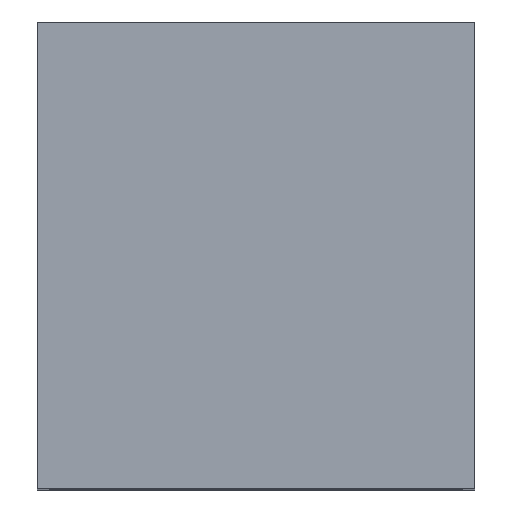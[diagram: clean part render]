
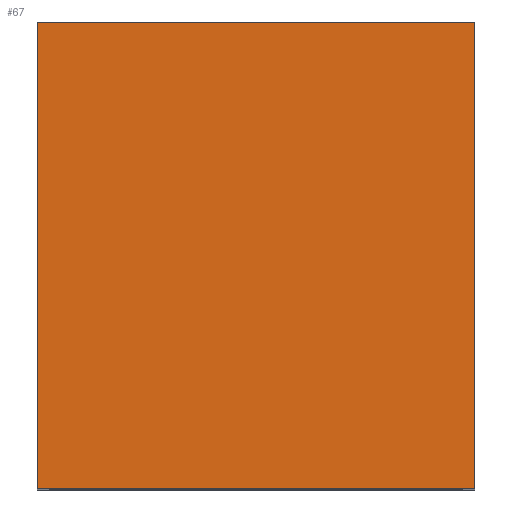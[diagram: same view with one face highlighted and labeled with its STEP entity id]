
A CAD part, top view. The second image highlights one B-rep face of the part: STEP entity #67.
In plain terms, the highlighted planar face has unit normal (0, 0, 1).
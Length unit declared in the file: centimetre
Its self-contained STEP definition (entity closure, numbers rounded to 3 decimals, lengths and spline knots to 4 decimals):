
#67=ADVANCED_FACE($,(#145),#873,.T.);
#145=FACE_OUTER_BOUND($,#223,.T.);
#223=EDGE_LOOP($,(#388,#389,#390,#391));
#388=ORIENTED_EDGE($,*,*,#639,.F.);
#389=ORIENTED_EDGE($,*,*,#638,.F.);
#390=ORIENTED_EDGE($,*,*,#637,.F.);
#391=ORIENTED_EDGE($,*,*,#636,.F.);
#636=EDGE_CURVE($,#776,#777,#974,.T.);
#637=EDGE_CURVE($,#777,#778,#975,.T.);
#638=EDGE_CURVE($,#778,#779,#976,.T.);
#639=EDGE_CURVE($,#779,#776,#977,.T.);
#776=VERTEX_POINT($,#1514);
#777=VERTEX_POINT($,#1515);
#778=VERTEX_POINT($,#1516);
#779=VERTEX_POINT($,#1517);
#873=PLANE($,#1195);
#974=B_SPLINE_CURVE_WITH_KNOTS($,1,(#1488,#1489),.UNSPECIFIED.,.F.,.F.,(2,
2),(0.,48.),.UNSPECIFIED.);
#975=B_SPLINE_CURVE_WITH_KNOTS($,1,(#1490,#1491),.UNSPECIFIED.,.F.,.F.,(2,
2),(0.,45.),.UNSPECIFIED.);
#976=B_SPLINE_CURVE_WITH_KNOTS($,1,(#1492,#1493),.UNSPECIFIED.,.F.,.F.,(2,
2),(0.,48.),.UNSPECIFIED.);
#977=B_SPLINE_CURVE_WITH_KNOTS($,1,(#1494,#1495),.UNSPECIFIED.,.F.,.F.,(2,
2),(0.,45.),.UNSPECIFIED.);
#1195=AXIS2_PLACEMENT_3D($,#1509,#1276,$);
#1276=DIRECTION($,(0.,0.,1.));
#1488=CARTESIAN_POINT($,(0.,0.,71.));
#1489=CARTESIAN_POINT($,(0.,48.,71.));
#1490=CARTESIAN_POINT($,(0.,48.,71.));
#1491=CARTESIAN_POINT($,(45.,48.,71.));
#1492=CARTESIAN_POINT($,(45.,48.,71.));
#1493=CARTESIAN_POINT($,(45.,0.,71.));
#1494=CARTESIAN_POINT($,(45.,0.,71.));
#1495=CARTESIAN_POINT($,(0.,0.,71.));
#1509=CARTESIAN_POINT($,(0.,0.,71.));
#1514=CARTESIAN_POINT($,(0.,0.,71.));
#1515=CARTESIAN_POINT($,(0.,48.,71.));
#1516=CARTESIAN_POINT($,(45.,48.,71.));
#1517=CARTESIAN_POINT($,(45.,0.,71.));
